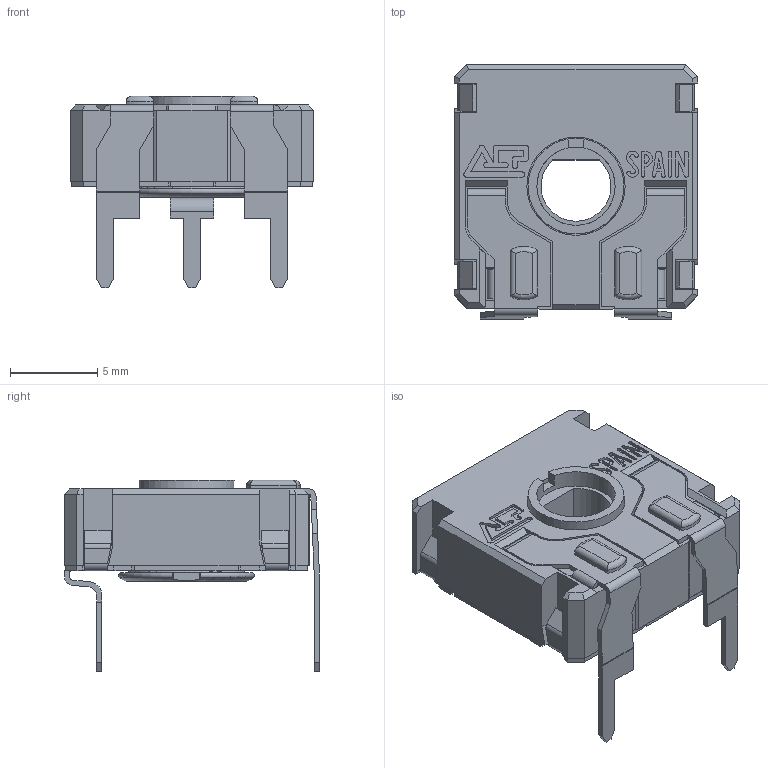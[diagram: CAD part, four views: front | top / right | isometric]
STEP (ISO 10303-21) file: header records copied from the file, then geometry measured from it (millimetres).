
FILE_DESCRIPTION(/* description */ (''),/* implementation_level */ '2;1');
FILE_NAME(/* name */ 'C:\Users\CEM\Desktop\ENVIAR\TRANSICION 3D CATALOGOS\CS14FV12,5.stp',/* time_stamp */ '2025-10-24T17:48:18+02:00',/* author */ ('CEM'),/* organization */ (''),/* preprocessor_version */ 'ST-DEVELOPER v17',/* originating_system */ 'Autodesk Inventor 2018',/* authorisation */ '');
FILE_SCHEMA (('AUTOMOTIVE_DESIGN { 1 0 10303 214 3 1 1 }'));
Length unit declared in the file: millimetre
Products named in the file (1): CS14FV12,5
Bounding box: 14 x 14.65 x 11 mm (x, y, z)
Volume: 550.8 mm3; surface area: 1617.8 mm2
Topology: 1 solids, 3 shells, 718 faces, 2022 edges, 1305 vertices
Faces by surface type: plane 545, cylinder 139, cone 15, bspline 10, torus 9
Full cylindrical faces by diameter (mm): 4.5 x1, 5.5 x1, 5.65 x1, 6.87 x1
Entity records: 24022 total; most frequent: CARTESIAN_POINT 4473, ORIENTED_EDGE 4044, DIRECTION 3760, EDGE_CURVE 2022, LINE 1592, VECTOR 1592, VERTEX_POINT 1305, AXIS2_PLACEMENT_3D 1084
